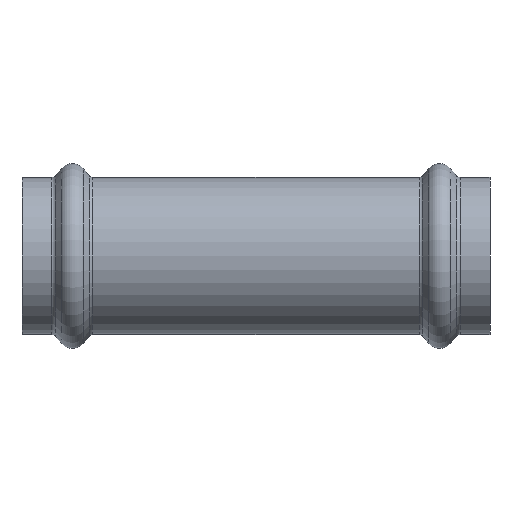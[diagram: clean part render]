
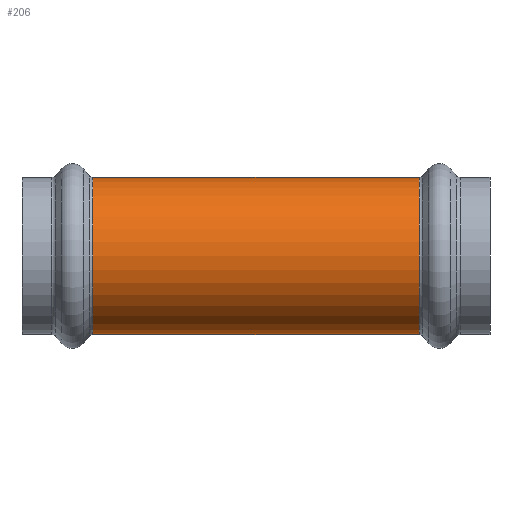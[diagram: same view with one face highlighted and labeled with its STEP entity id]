
A CAD part, front view. The second image highlights one B-rep face of the part: STEP entity #206.
In plain terms, the highlighted cylindrical face has radius 15.6 mm (diameter 31.2 mm), a partial arc.
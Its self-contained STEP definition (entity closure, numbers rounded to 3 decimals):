
#40 = LINE ( 'NONE', #434, #470 ) ;
#80 = ORIENTED_EDGE ( 'NONE', *, *, #1061, .F. ) ;
#117 = EDGE_CURVE ( 'NONE', #728, #264, #974, .T. ) ;
#206 = ADVANCED_FACE ( 'NONE', ( #1239 ), #1161, .T. ) ;
#264 = VERTEX_POINT ( 'NONE', #989 ) ;
#288 = CIRCLE ( 'NONE', #631, 15.6 ) ;
#289 = ORIENTED_EDGE ( 'NONE', *, *, #117, .T. ) ;
#295 = CARTESIAN_POINT ( 'NONE',  ( -32.397, 0., 15.6 ) ) ;
#306 = AXIS2_PLACEMENT_3D ( 'NONE', #698, #699, #700 ) ;
#313 = VECTOR ( 'NONE', #1145, 1000. ) ;
#400 = DIRECTION ( 'NONE',  ( -1., 0., 0. ) ) ;
#425 = LINE ( 'NONE', #771, #313 ) ;
#434 = CARTESIAN_POINT ( 'NONE',  ( -55.033, 0., 15.6 ) ) ;
#470 = VECTOR ( 'NONE', #400, 1000. ) ;
#483 = VERTEX_POINT ( 'NONE', #580 ) ;
#580 = CARTESIAN_POINT ( 'NONE',  ( -32.397, 0., -15.6 ) ) ;
#631 = AXIS2_PLACEMENT_3D ( 'NONE', #1134, #1135, #1066 ) ;
#698 = CARTESIAN_POINT ( 'NONE',  ( 32.397, 0., 0. ) ) ;
#699 = DIRECTION ( 'NONE',  ( -1., 0., 0. ) ) ;
#700 = DIRECTION ( 'NONE',  ( 0., 0., -1. ) ) ;
#703 = EDGE_LOOP ( 'NONE', ( #80, #289, #988, #958 ) ) ;
#705 = EDGE_CURVE ( 'NONE', #1149, #483, #288, .T. ) ;
#728 = VERTEX_POINT ( 'NONE', #1075 ) ;
#771 = CARTESIAN_POINT ( 'NONE',  ( -55.033, 0., -15.6 ) ) ;
#907 = DIRECTION ( 'NONE',  ( 0., 0., 1. ) ) ;
#913 = CARTESIAN_POINT ( 'NONE',  ( -55.033, 0., 0. ) ) ;
#945 = DIRECTION ( 'NONE',  ( -1., 0., 0. ) ) ;
#958 = ORIENTED_EDGE ( 'NONE', *, *, #705, .T. ) ;
#974 = CIRCLE ( 'NONE', #306, 15.6 ) ;
#988 = ORIENTED_EDGE ( 'NONE', *, *, #1122, .T. ) ;
#989 = CARTESIAN_POINT ( 'NONE',  ( 32.397, 0., 15.6 ) ) ;
#1061 = EDGE_CURVE ( 'NONE', #728, #483, #425, .T. ) ;
#1066 = DIRECTION ( 'NONE',  ( 0., 0., 1. ) ) ;
#1075 = CARTESIAN_POINT ( 'NONE',  ( 32.397, 0., -15.6 ) ) ;
#1109 = AXIS2_PLACEMENT_3D ( 'NONE', #913, #945, #907 ) ;
#1122 = EDGE_CURVE ( 'NONE', #264, #1149, #40, .T. ) ;
#1134 = CARTESIAN_POINT ( 'NONE',  ( -32.397, 0., 0. ) ) ;
#1135 = DIRECTION ( 'NONE',  ( 1., 0., 0. ) ) ;
#1145 = DIRECTION ( 'NONE',  ( -1., 0., 0. ) ) ;
#1149 = VERTEX_POINT ( 'NONE', #295 ) ;
#1161 = CYLINDRICAL_SURFACE ( 'NONE', #1109, 15.6 ) ;
#1239 = FACE_OUTER_BOUND ( 'NONE', #703, .T. ) ;
